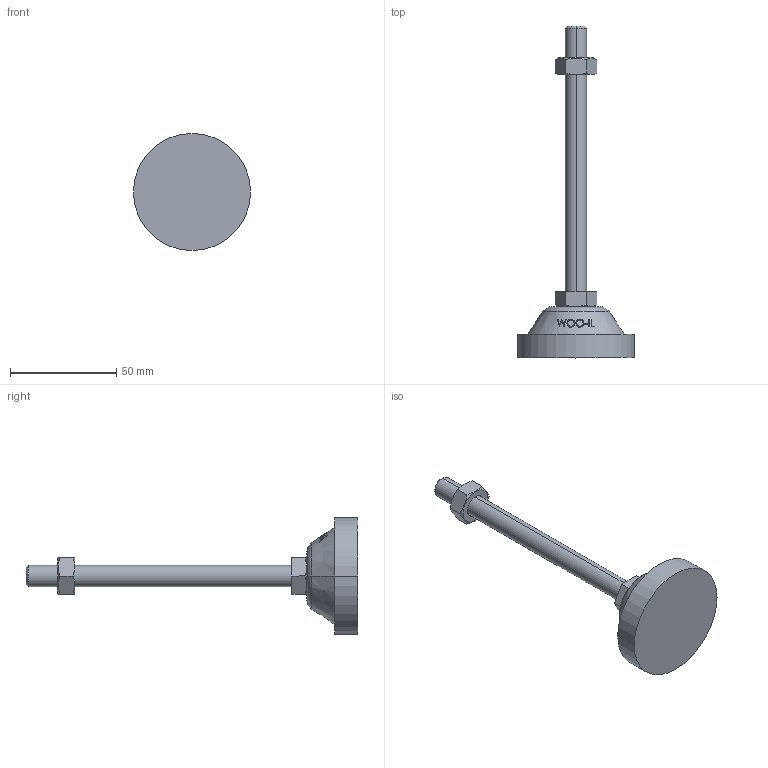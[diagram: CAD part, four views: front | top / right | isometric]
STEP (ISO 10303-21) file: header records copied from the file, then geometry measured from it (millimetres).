
FILE_DESCRIPTION (( 'STEP AP214' ), '1' );
FILE_NAME ('RL55-M10-125.step', '2021-01-06T08:16:20', ( '' ), ( '' ), 'SwSTEP 2.0', 'SolidWorks 2019', '' );
FILE_SCHEMA (( 'AUTOMOTIVE_DESIGN' ));
Length unit declared in the file: millimetre
Products named in the file (1): RL55-M10-125
Bounding box: 55 x 156 x 55 mm (x, y, z)
Volume: 53125.6 mm3; surface area: 13255.4 mm2
Topology: 3 solids, 3 shells, 93 faces, 217 edges, 140 vertices
Faces by surface type: plane 47, cone 22, bspline 16, cylinder 6, torus 2
Entity records: 4029 total; most frequent: CARTESIAN_POINT 1997, ORIENTED_EDGE 434, DIRECTION 349, EDGE_CURVE 217, VERTEX_POINT 140, AXIS2_PLACEMENT_3D 134, EDGE_LOOP 105, FACE_OUTER_BOUND 93
